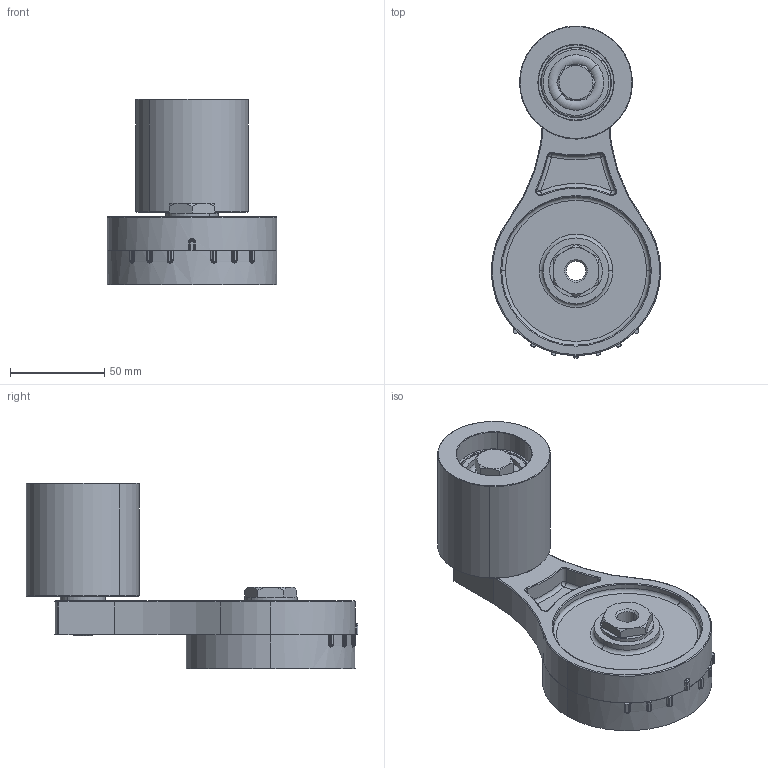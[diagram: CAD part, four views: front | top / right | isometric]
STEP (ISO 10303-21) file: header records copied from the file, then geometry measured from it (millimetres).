
FILE_DESCRIPTION (( 'STEP AP203' ), '1' );
FILE_NAME ('TRU2 - 6060AL cod. 94032060.STEP', '2017-08-23T11:37:46', ( '' ), ( '' ), 'SwSTEP 2.0', 'SolidWorks 2016', '' );
FILE_SCHEMA (( 'CONFIG_CONTROL_DESIGN' ));
Length unit declared in the file: millimetre
Products named in the file (12): TRU2 - 6060AL cod. 94032060; ISO 4014 - M12 x 70 x 70-C_ISO 4014 - M12 x 70 x 70-C; Washer ISO 7089 - 12_Washer ISO 7089 - 12; DIST-6060-INT; Boccola BZ 20X25X28X2X14; T2 Leva 12_Step; RU 6060 AL cod. 94040060_montaggio; T2 Base 2017_step; SKF - 6301 - 8,SI,NC,8_68_SKF - 6301 - 8,SI,NC,8_68; T2 Esagono di montaggio; AL-2976060VS; T2 12 cod.94030212N
Assembly tree (12 placements, depth 3):
  TRU2 - 6060AL cod. 94032060
    T2 12 cod.94030212N
      T2 Base 2017_step
      T2 Leva 12_Step
      Boccola BZ 20X25X28X2X14
      T2 Esagono di montaggio
    RU 6060 AL cod. 94040060_montaggio
      AL-2976060VS
      DIST-6060-INT
      ISO 4014 - M12 x 70 x 70-C_ISO 4014 - M12 x 70 x 70-C
      SKF - 6301 - 8,SI,NC,8_68_SKF - 6301 - 8,SI,NC,8_68  x2
      Washer ISO 7089 - 12_Washer ISO 7089 - 12
Bounding box: 90 x 176.28 x 98.5 mm (x, y, z)
Volume: 388760.3 mm3; surface area: 94469 mm2
Topology: 10 solids, 10 shells, 337 faces, 750 edges, 448 vertices
Faces by surface type: cylinder 139, plane 80, torus 57, cone 42, bspline 12, sphere 7
Entity records: 10840 total; most frequent: CARTESIAN_POINT 2502, DIRECTION 1638, ORIENTED_EDGE 1372, AXIS2_PLACEMENT_3D 696, EDGE_CURVE 686, VERTEX_POINT 412, CIRCLE 382, EDGE_LOOP 346
